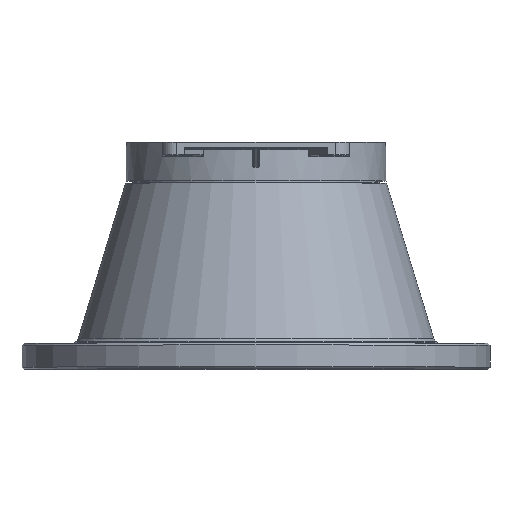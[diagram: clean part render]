
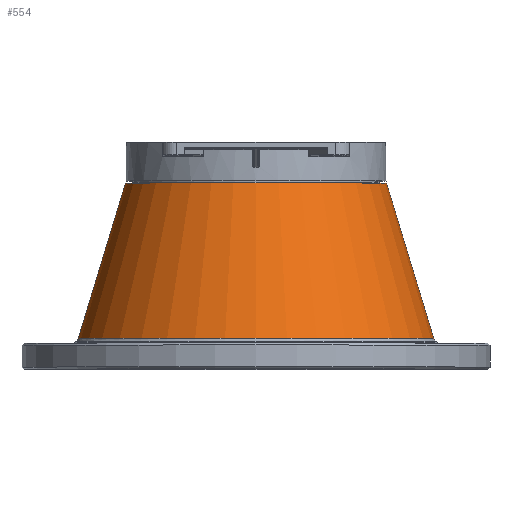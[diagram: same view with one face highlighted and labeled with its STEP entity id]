
A CAD part, top view. The second image highlights one B-rep face of the part: STEP entity #554.
In plain terms, the highlighted free-form (B-spline) face has degree [2, 1] with [9, 2] control points.
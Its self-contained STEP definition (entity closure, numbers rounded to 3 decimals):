
#474=CARTESIAN_POINT('',(251.766,538.749,-1.0));
#475=VERTEX_POINT('',#474);
#476=CARTESIAN_POINT('',(502.766,538.749,-1.0));
#477=VERTEX_POINT('',#476);
#478=CARTESIAN_POINT('',(377.266,538.749,-1.0));
#479=DIRECTION('',(0.0,-1.0,0.0));
#480=DIRECTION('',(1.0,0.0,0.0));
#481=AXIS2_PLACEMENT_3D('',#478,#479,#480);
#482=CIRCLE('',#481,125.5);
#483=EDGE_CURVE('',#475,#477,#482,.T.);
#485=CARTESIAN_POINT('',(377.266,538.749,-1.0));
#486=DIRECTION('',(0.0,-1.0,0.0));
#487=DIRECTION('',(1.0,0.0,0.0));
#488=AXIS2_PLACEMENT_3D('',#485,#486,#487);
#489=CIRCLE('',#488,125.5);
#490=EDGE_CURVE('',#477,#475,#489,.T.);
#499=CARTESIAN_POINT('',(502.766,538.749,-1.0));
#500=CARTESIAN_POINT('',(502.766,538.749,124.5));
#501=CARTESIAN_POINT('',(377.266,538.749,124.5));
#502=CARTESIAN_POINT('',(251.766,538.749,124.5));
#503=CARTESIAN_POINT('',(251.766,538.749,-1.0));
#504=CARTESIAN_POINT('',(251.766,538.749,-126.5));
#505=CARTESIAN_POINT('',(377.266,538.749,-126.5));
#506=CARTESIAN_POINT('',(502.766,538.749,-126.5));
#507=CARTESIAN_POINT('',(502.766,538.749,-1.0));
#508=CARTESIAN_POINT('',(548.189,389.295,-1.0));
#509=CARTESIAN_POINT('',(548.189,389.295,169.922));
#510=CARTESIAN_POINT('',(377.266,389.295,169.922));
#511=CARTESIAN_POINT('',(206.344,389.295,169.922));
#512=CARTESIAN_POINT('',(206.344,389.295,-1.0));
#513=CARTESIAN_POINT('',(206.344,389.295,-171.922));
#514=CARTESIAN_POINT('',(377.266,389.295,-171.922));
#515=CARTESIAN_POINT('',(548.189,389.295,-171.922));
#516=CARTESIAN_POINT('',(548.189,389.295,-1.0));
#524=(BOUNDED_SURFACE()B_SPLINE_SURFACE(2,1,((#499,#508),(#500,#509),(#501,#510),(#502,#511),(#503,#512),(#504,#513),(#505,#514),(#506,#515),(#507,#516)),.UNSPECIFIED.,.T.,.F.,.U.)B_SPLINE_SURFACE_WITH_KNOTS((3,2,2,2,3),(2,2),(0.0,0.25,0.5,0.75,1.0),(0.0,156.204),.UNSPECIFIED.)GEOMETRIC_REPRESENTATION_ITEM()RATIONAL_B_SPLINE_SURFACE(((1.0,1.0),(0.707,0.707),(1.0,1.0),(0.707,0.707),(1.0,1.0),(0.707,0.707),(1.0,1.0),(0.707,0.707),(1.0,1.0)))REPRESENTATION_ITEM('')SURFACE());
#525=ORIENTED_EDGE('',*,*,#490,.T.);
#526=ORIENTED_EDGE('',*,*,#483,.T.);
#527=CARTESIAN_POINT('',(548.189,389.295,-1.0));
#528=VERTEX_POINT('',#527);
#529=CARTESIAN_POINT('',(502.766,538.749,-1.0));
#530=DIRECTION('',(0.291,-0.957,0.0));
#531=VECTOR('',#530,156.204);
#532=LINE('',#529,#531);
#533=EDGE_CURVE('',#477,#528,#532,.T.);
#534=ORIENTED_EDGE('',*,*,#533,.T.);
#535=CARTESIAN_POINT('',(206.344,389.295,-1.0));
#536=VERTEX_POINT('',#535);
#537=CARTESIAN_POINT('',(377.266,389.295,-1.0));
#538=DIRECTION('',(0.0,-1.0,0.0));
#539=DIRECTION('',(1.0,0.0,0.0));
#540=AXIS2_PLACEMENT_3D('',#537,#538,#539);
#541=CIRCLE('',#540,170.922);
#542=EDGE_CURVE('',#536,#528,#541,.T.);
#543=ORIENTED_EDGE('',*,*,#542,.F.);
#544=CARTESIAN_POINT('',(377.266,389.295,-1.0));
#545=DIRECTION('',(0.0,-1.0,0.0));
#546=DIRECTION('',(1.0,0.0,0.0));
#547=AXIS2_PLACEMENT_3D('',#544,#545,#546);
#548=CIRCLE('',#547,170.922);
#549=EDGE_CURVE('',#528,#536,#548,.T.);
#550=ORIENTED_EDGE('',*,*,#549,.F.);
#551=ORIENTED_EDGE('',*,*,#533,.F.);
#552=EDGE_LOOP('',(#525,#526,#534,#543,#550,#551));
#553=FACE_OUTER_BOUND('',#552,.T.);
#554=ADVANCED_FACE('',(#553),#524,.T.);
